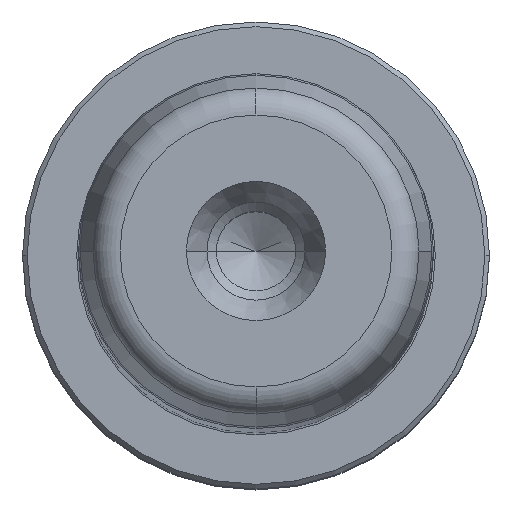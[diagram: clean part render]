
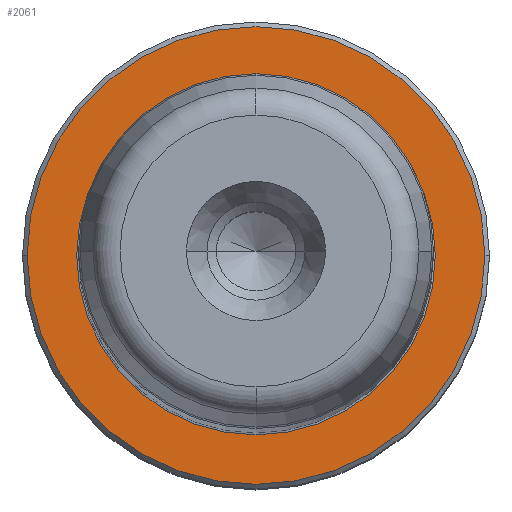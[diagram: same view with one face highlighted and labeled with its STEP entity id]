
A CAD part, top view. The second image highlights one B-rep face of the part: STEP entity #2061.
In plain terms, the highlighted planar face has unit normal (0, 0, 1).
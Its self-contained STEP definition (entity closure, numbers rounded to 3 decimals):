
#898=CARTESIAN_POINT('',(0.0,-19.2,5.));
#899=VERTEX_POINT('',#898);
#907=CARTESIAN_POINT('',(19.2,0.,5.0));
#908=VERTEX_POINT('',#907);
#909=CARTESIAN_POINT('',(0.0,0.,5.0));
#910=DIRECTION('',(0.0,0.0,1.0));
#911=DIRECTION('',(1.0,0.0,0.0));
#912=AXIS2_PLACEMENT_3D('',#909,#910,#911);
#913=CIRCLE('',#912,19.2);
#914=EDGE_CURVE('',#899,#908,#913,.T.);
#916=CARTESIAN_POINT('',(0.,19.2,5.));
#917=VERTEX_POINT('',#916);
#918=CARTESIAN_POINT('',(0.0,0.,5.0));
#919=DIRECTION('',(0.0,0.0,1.0));
#920=DIRECTION('',(1.0,0.0,0.0));
#921=AXIS2_PLACEMENT_3D('',#918,#919,#920);
#922=CIRCLE('',#921,19.2);
#923=EDGE_CURVE('',#908,#917,#922,.T.);
#950=CARTESIAN_POINT('',(24.5,0.,5.0));
#951=VERTEX_POINT('',#950);
#960=CARTESIAN_POINT('',(-24.5,0.,5.));
#961=VERTEX_POINT('',#960);
#962=CARTESIAN_POINT('',(0.0,0.,5.0));
#963=DIRECTION('',(0.0,0.0,1.0));
#964=DIRECTION('',(1.0,0.0,0.0));
#965=AXIS2_PLACEMENT_3D('',#962,#963,#964);
#966=CIRCLE('',#965,24.5);
#967=EDGE_CURVE('',#961,#951,#966,.T.);
#2031=CARTESIAN_POINT('',(0.0,0.,5.0));
#2032=DIRECTION('',(0.0,0.0,1.0));
#2033=DIRECTION('',(1.0,0.0,0.0));
#2034=AXIS2_PLACEMENT_3D('',#2031,#2032,#2033);
#2035=CIRCLE('',#2034,24.5);
#2036=EDGE_CURVE('',#951,#961,#2035,.T.);
#2041=CARTESIAN_POINT('',(21.85,0.,5.0));
#2042=DIRECTION('',(0.0,0.0,1.0));
#2043=DIRECTION('',(0.0,-1.0,0.0));
#2044=AXIS2_PLACEMENT_3D('',#2041,#2042,#2043);
#2045=PLANE('',#2044);
#2046=ORIENTED_EDGE('',*,*,#2036,.T.);
#2047=ORIENTED_EDGE('',*,*,#967,.T.);
#2048=EDGE_LOOP('',(#2046,#2047));
#2049=FACE_OUTER_BOUND('',#2048,.T.);
#2050=ORIENTED_EDGE('',*,*,#923,.F.);
#2051=ORIENTED_EDGE('',*,*,#914,.F.);
#2052=CARTESIAN_POINT('',(0.0,0.,5.0));
#2053=DIRECTION('',(0.0,0.0,1.0));
#2054=DIRECTION('',(1.0,0.0,0.0));
#2055=AXIS2_PLACEMENT_3D('',#2052,#2053,#2054);
#2056=CIRCLE('',#2055,19.2);
#2057=EDGE_CURVE('',#917,#899,#2056,.T.);
#2058=ORIENTED_EDGE('',*,*,#2057,.F.);
#2059=EDGE_LOOP('',(#2050,#2051,#2058));
#2060=FACE_BOUND('',#2059,.T.);
#2061=ADVANCED_FACE('',(#2049,#2060),#2045,.T.);
